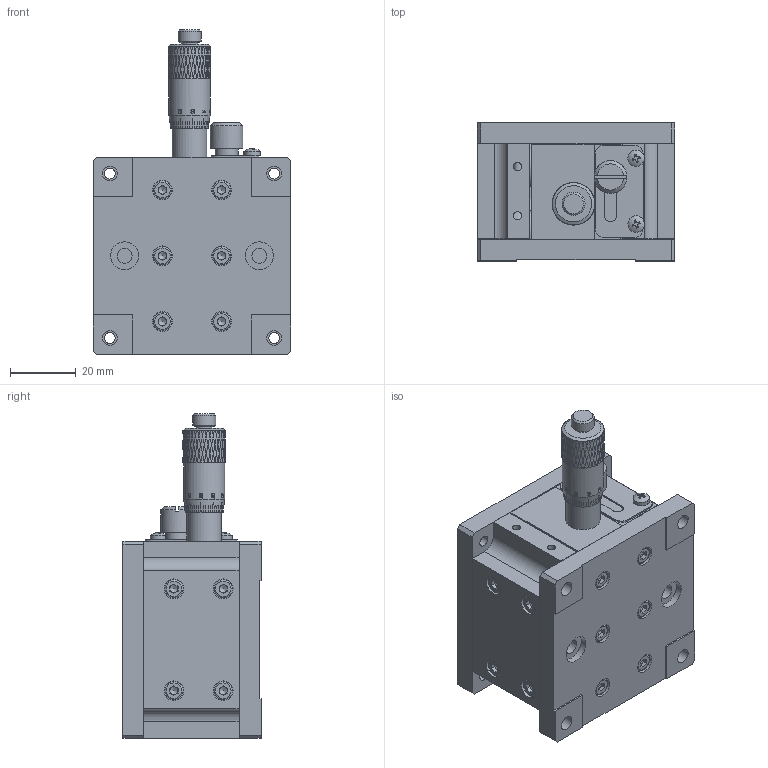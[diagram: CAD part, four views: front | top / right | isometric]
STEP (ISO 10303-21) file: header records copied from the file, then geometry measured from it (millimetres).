
FILE_DESCRIPTION (( 'STEP AP203' ), '1' );
FILE_NAME ('BLEZ60L.STEP', '2024-07-02T01:38:27', ( 'Windows User' ), ( 'P R C' ), 'SwSTEP 2.0', 'SolidWorks 2024', '' );
FILE_SCHEMA (( 'CONFIG_CONTROL_DESIGN' ));
Products named in the file (1): BLEZ60L
Bounding box: 60 x 42 x 98.8 mm (x, y, z)
Volume: 123571 mm3; surface area: 76886.7 mm2
Topology: 46 solids, 46 shells, 1918 faces, 4571 edges, 2897 vertices
Faces by surface type: plane 782, cylinder 484, bspline 365, cone 246, torus 38, sphere 3
Full cylindrical faces by diameter (mm): 1.6 x1, 2.05 x4, 2.5 x30, 2.55 x16, 2.9 x2, 2.95 x9, 3 x22, 3.2 x1, 3.3 x8, 3.4 x31, 4.4 x16, 4.5 x6, 5 x5, 5.5 x25, 5.6 x1, 6 x31, 7 x4, 8 x2, 8.5 x3, 9 x8, 9.5 x2, 10 x1, 10.5 x1, 12.5 x1
Entity records: 72812 total; most frequent: CARTESIAN_POINT 34741, ORIENTED_EDGE 8044, DIRECTION 6435, EDGE_CURVE 4022, VERTEX_POINT 2745, EDGE_LOOP 2607, AXIS2_PLACEMENT_3D 2515, FACE_OUTER_BOUND 2155
